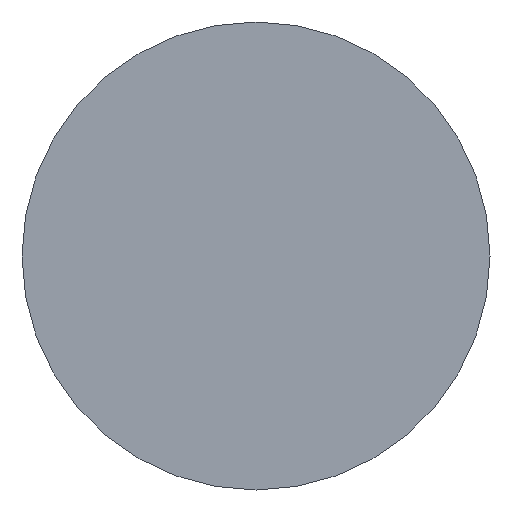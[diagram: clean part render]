
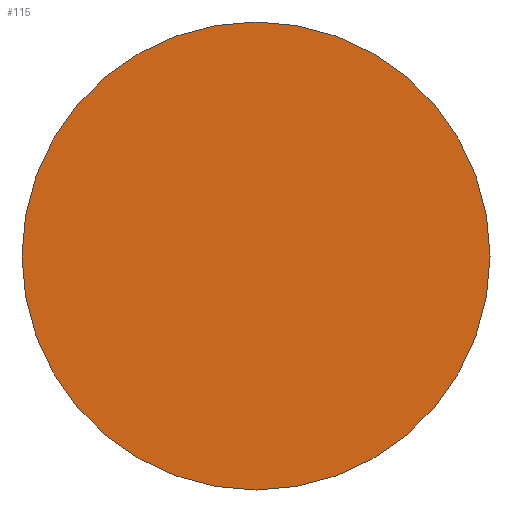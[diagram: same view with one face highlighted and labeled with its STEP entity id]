
A CAD part, front view. The second image highlights one B-rep face of the part: STEP entity #115.
In plain terms, the highlighted planar face has unit normal (0, -1, 0).
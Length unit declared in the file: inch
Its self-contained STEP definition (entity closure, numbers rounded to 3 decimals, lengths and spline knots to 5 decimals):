
#1 = AXIS2_PLACEMENT_3D ( 'NONE', #200, #86, #233 ) ;
#3 = AXIS2_PLACEMENT_3D ( 'NONE', #124, #16, #142 ) ;
#16 = DIRECTION ( 'NONE',  ( 0., -1., 0. ) ) ;
#46 = AXIS2_PLACEMENT_3D ( 'NONE', #57, #178, #65 ) ;
#55 = ORIENTED_EDGE ( 'NONE', *, *, #89, .T. ) ;
#57 = CARTESIAN_POINT ( 'NONE',  ( 0., -0.08, 0. ) ) ;
#65 = DIRECTION ( 'NONE',  ( 0., 0., -1. ) ) ;
#75 = EDGE_CURVE ( 'NONE', #209, #220, #242, .T. ) ;
#86 = DIRECTION ( 'NONE',  ( 0., -1., 0. ) ) ;
#89 = EDGE_CURVE ( 'NONE', #220, #209, #188, .T. ) ;
#103 = EDGE_LOOP ( 'NONE', ( #55, #199 ) ) ;
#115 = ADVANCED_FACE ( 'NONE', ( #244 ), #143, .T. ) ;
#124 = CARTESIAN_POINT ( 'NONE',  ( 0., -0.08, 0. ) ) ;
#142 = DIRECTION ( 'NONE',  ( 0., 0., -1. ) ) ;
#143 = PLANE ( 'NONE',  #46 ) ;
#160 = CARTESIAN_POINT ( 'NONE',  ( 0., -0.08, -0.055 ) ) ;
#178 = DIRECTION ( 'NONE',  ( 0., -1., 0. ) ) ;
#188 = CIRCLE ( 'NONE', #1, 0.055 ) ;
#199 = ORIENTED_EDGE ( 'NONE', *, *, #75, .T. ) ;
#200 = CARTESIAN_POINT ( 'NONE',  ( 0., -0.08, 0. ) ) ;
#209 = VERTEX_POINT ( 'NONE', #160 ) ;
#220 = VERTEX_POINT ( 'NONE', #243 ) ;
#233 = DIRECTION ( 'NONE',  ( 0., 0., -1. ) ) ;
#242 = CIRCLE ( 'NONE', #3, 0.055 ) ;
#243 = CARTESIAN_POINT ( 'NONE',  ( 0., -0.08, 0.055 ) ) ;
#244 = FACE_OUTER_BOUND ( 'NONE', #103, .T. ) ;
